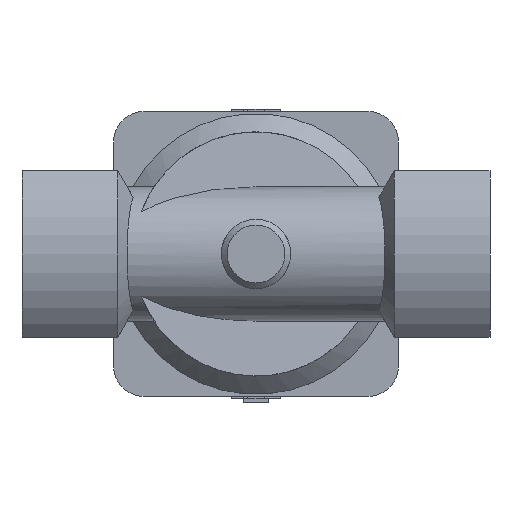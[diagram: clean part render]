
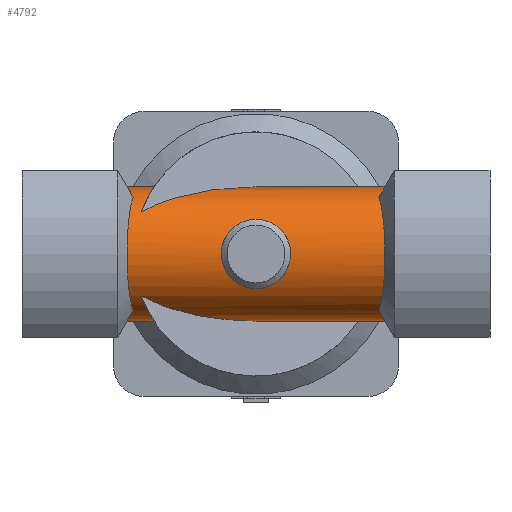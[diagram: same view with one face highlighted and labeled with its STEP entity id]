
A CAD part, front view. The second image highlights one B-rep face of the part: STEP entity #4792.
In plain terms, the highlighted cylindrical face has radius 16.5 mm (diameter 33 mm), a partial arc.
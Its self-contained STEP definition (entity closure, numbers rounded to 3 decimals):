
#442=LINE('',#7742,#882);
#443=LINE('',#7754,#883);
#444=LINE('',#7773,#884);
#445=LINE('',#7786,#885);
#882=VECTOR('',#6286,1000.);
#883=VECTOR('',#6289,1000.);
#884=VECTOR('',#6294,1000.);
#885=VECTOR('',#6297,1000.);
#1322=B_SPLINE_CURVE_WITH_KNOTS('',3,(#7727,#7728,#7729,#7730,#7731,#7732,
#7733,#7734,#7735,#7736,#7737,#7738),.UNSPECIFIED.,.F.,.F.,(4,1,1,1,1,1,
1,1,1,4),(0.001,0.009,0.014,0.016,
0.018,0.022,0.024,0.026,
0.03,0.034),.UNSPECIFIED.);
#1323=B_SPLINE_CURVE_WITH_KNOTS('',3,(#7744,#7745,#7746,#7747,#7748,#7749,
#7750),.UNSPECIFIED.,.F.,.F.,(4,1,1,1,4),(0.,0.004,
0.007,0.011,0.015),.UNSPECIFIED.);
#1324=B_SPLINE_CURVE_WITH_KNOTS('',3,(#7758,#7759,#7760,#7761,#7762,#7763,
#7764,#7765,#7766,#7767,#7768,#7769),.UNSPECIFIED.,.F.,.F.,(4,1,1,1,1,1,
1,1,1,4),(0.001,0.009,0.014,0.016,
0.018,0.022,0.024,0.026,
0.03,0.034),.UNSPECIFIED.);
#1325=B_SPLINE_CURVE_WITH_KNOTS('',3,(#7777,#7778,#7779,#7780,#7781,#7782,
#7783,#7784),.UNSPECIFIED.,.F.,.F.,(4,1,1,1,1,4),(0.002,0.006,
0.009,0.011,0.013,0.017),
 .UNSPECIFIED.);
#1326=B_SPLINE_CURVE_WITH_KNOTS('',3,(#7787,#7788,#7789,#7790,#7791,#7792,
#7793,#7794,#7795,#7796,#7797,#7798,#7799,#7800,#7801,#7802,#7803,#7804,
#7805,#7806),.UNSPECIFIED.,.T.,.F.,(1,1,1,1,1,1,1,1,1,1,1,1,1,1,1,1,1,1,
1,1,1,1,1,1),(-0.007,-0.003,-0.002,
0.,0.003,0.007,0.01,0.014,
0.017,0.02,0.024,0.027,
0.03,0.034,0.037,0.041,
0.044,0.047,0.051,0.052,
0.054,0.057,0.061,0.064),
 .UNSPECIFIED.);
#1377=ORIENTED_EDGE('',*,*,#2761,.F.);
#1378=ORIENTED_EDGE('',*,*,#2762,.F.);
#1379=ORIENTED_EDGE('',*,*,#2763,.F.);
#1380=ORIENTED_EDGE('',*,*,#2764,.F.);
#1381=ORIENTED_EDGE('',*,*,#2765,.T.);
#1382=ORIENTED_EDGE('',*,*,#2766,.F.);
#1383=ORIENTED_EDGE('',*,*,#2767,.F.);
#1384=ORIENTED_EDGE('',*,*,#2768,.T.);
#1385=ORIENTED_EDGE('',*,*,#2769,.T.);
#1386=ORIENTED_EDGE('',*,*,#2770,.T.);
#1387=ORIENTED_EDGE('',*,*,#2771,.F.);
#1388=ORIENTED_EDGE('',*,*,#2772,.F.);
#1389=ORIENTED_EDGE('',*,*,#2773,.T.);
#1390=ORIENTED_EDGE('',*,*,#2774,.F.);
#1391=ORIENTED_EDGE('',*,*,#2775,.F.);
#2761=EDGE_CURVE('',#3453,#3454,#3931,.F.);
#2762=EDGE_CURVE('',#3455,#3453,#1322,.T.);
#2763=EDGE_CURVE('',#3456,#3455,#3932,.F.);
#2764=EDGE_CURVE('',#3457,#3456,#442,.T.);
#2765=EDGE_CURVE('',#3457,#3458,#1323,.T.);
#2766=EDGE_CURVE('',#3459,#3458,#3933,.F.);
#2767=EDGE_CURVE('',#3460,#3459,#443,.T.);
#2768=EDGE_CURVE('',#3460,#3461,#3934,.T.);
#2769=EDGE_CURVE('',#3461,#3462,#1324,.T.);
#2770=EDGE_CURVE('',#3462,#3463,#3935,.T.);
#2771=EDGE_CURVE('',#3464,#3463,#444,.T.);
#2772=EDGE_CURVE('',#3465,#3464,#3936,.F.);
#2773=EDGE_CURVE('',#3465,#3466,#1325,.T.);
#2774=EDGE_CURVE('',#3454,#3466,#445,.T.);
#2775=EDGE_CURVE('',#3467,#3467,#1326,.T.);
#3453=VERTEX_POINT('',#7725);
#3454=VERTEX_POINT('',#7726);
#3455=VERTEX_POINT('',#7739);
#3456=VERTEX_POINT('',#7741);
#3457=VERTEX_POINT('',#7743);
#3458=VERTEX_POINT('',#7751);
#3459=VERTEX_POINT('',#7753);
#3460=VERTEX_POINT('',#7755);
#3461=VERTEX_POINT('',#7757);
#3462=VERTEX_POINT('',#7770);
#3463=VERTEX_POINT('',#7772);
#3464=VERTEX_POINT('',#7774);
#3465=VERTEX_POINT('',#7776);
#3466=VERTEX_POINT('',#7785);
#3467=VERTEX_POINT('',#7807);
#3931=ELLIPSE('',#5778,19.053,16.5);
#3932=ELLIPSE('',#5779,19.053,16.5);
#3933=ELLIPSE('',#5780,39.788,16.5);
#3934=ELLIPSE('',#5781,19.053,16.5);
#3935=ELLIPSE('',#5782,19.053,16.5);
#3936=ELLIPSE('',#5783,39.788,16.5);
#3947=EDGE_LOOP('',(#1377,#1378,#1379,#1380,#1381,#1382,#1383,#1384,#1385,
#1386,#1387,#1388,#1389,#1390));
#3948=EDGE_LOOP('',(#1391));
#4331=FACE_BOUND('',#3947,.T.);
#4332=FACE_BOUND('',#3948,.T.);
#4715=CYLINDRICAL_SURFACE('',#5777,16.5);
#4792=ADVANCED_FACE('',(#4331,#4332),#4715,.T.);
#5777=AXIS2_PLACEMENT_3D('',#7723,#6280,#6281);
#5778=AXIS2_PLACEMENT_3D('',#7724,#6282,#6283);
#5779=AXIS2_PLACEMENT_3D('',#7740,#6284,#6285);
#5780=AXIS2_PLACEMENT_3D('',#7752,#6287,#6288);
#5781=AXIS2_PLACEMENT_3D('',#7756,#6290,#6291);
#5782=AXIS2_PLACEMENT_3D('',#7771,#6292,#6293);
#5783=AXIS2_PLACEMENT_3D('',#7775,#6295,#6296);
#6280=DIRECTION('',(-1.,0.,0.));
#6281=DIRECTION('',(0.,0.,1.));
#6282=DIRECTION('',(0.866,0.,0.5));
#6283=DIRECTION('',(-0.5,0.,0.866));
#6284=DIRECTION('',(0.866,0.,-0.5));
#6285=DIRECTION('',(-0.5,0.,-0.866));
#6286=DIRECTION('',(-1.,0.,0.));
#6287=DIRECTION('',(0.415,-0.91,0.));
#6288=DIRECTION('',(-0.91,-0.415,0.));
#6289=DIRECTION('',(-1.,0.,0.));
#6290=DIRECTION('',(-0.866,0.,-0.5));
#6291=DIRECTION('',(-0.5,0.,0.866));
#6292=DIRECTION('',(-0.866,0.,0.5));
#6293=DIRECTION('',(-0.5,0.,-0.866));
#6294=DIRECTION('',(1.,0.,0.));
#6295=DIRECTION('',(0.415,-0.91,0.));
#6296=DIRECTION('',(-0.91,-0.415,0.));
#6297=DIRECTION('',(1.,0.,0.));
#7723=CARTESIAN_POINT('',(35.,0.,0.));
#7724=CARTESIAN_POINT('',(-22.164,0.,0.));
#7725=CARTESIAN_POINT('',(-30.223,-8.798,13.959));
#7726=CARTESIAN_POINT('',(-31.691,0.,16.5));
#7727=CARTESIAN_POINT('',(-30.223,-8.798,-13.959));
#7728=CARTESIAN_POINT('',(-30.692,-11.121,-12.494));
#7729=CARTESIAN_POINT('',(-31.245,-14.054,-9.414));
#7730=CARTESIAN_POINT('',(-31.579,-15.883,-4.831));
#7731=CARTESIAN_POINT('',(-31.674,-16.409,-2.113));
#7732=CARTESIAN_POINT('',(-31.707,-16.589,0.702));
#7733=CARTESIAN_POINT('',(-31.644,-16.239,3.461));
#7734=CARTESIAN_POINT('',(-31.485,-15.365,6.133));
#7735=CARTESIAN_POINT('',(-31.267,-14.183,8.629));
#7736=CARTESIAN_POINT('',(-30.878,-12.111,11.463));
#7737=CARTESIAN_POINT('',(-30.459,-9.968,13.221));
#7738=CARTESIAN_POINT('',(-30.223,-8.798,13.959));
#7739=CARTESIAN_POINT('',(-30.223,-8.798,-13.959));
#7740=CARTESIAN_POINT('',(-22.164,0.,0.));
#7741=CARTESIAN_POINT('',(-31.691,0.,-16.5));
#7742=CARTESIAN_POINT('',(35.,0.,-16.5));
#7743=CARTESIAN_POINT('',(-25.055,0.,-16.5));
#7744=CARTESIAN_POINT('',(-25.055,0.,-16.5));
#7745=CARTESIAN_POINT('',(-25.055,-1.27,-16.5));
#7746=CARTESIAN_POINT('',(-25.248,-3.75,-16.212));
#7747=CARTESIAN_POINT('',(-26.023,-7.272,-14.965));
#7748=CARTESIAN_POINT('',(-27.071,-10.361,-13.009));
#7749=CARTESIAN_POINT('',(-27.8,-12.065,-11.32));
#7750=CARTESIAN_POINT('',(-28.148,-12.828,-10.378));
#7751=CARTESIAN_POINT('',(-28.148,-12.828,-10.378));
#7752=CARTESIAN_POINT('',(0.,0.,0.));
#7753=CARTESIAN_POINT('',(0.,0.,-16.5));
#7754=CARTESIAN_POINT('',(35.,0.,-16.5));
#7755=CARTESIAN_POINT('',(31.691,0.,-16.5));
#7756=CARTESIAN_POINT('',(22.164,0.,0.));
#7757=CARTESIAN_POINT('',(30.223,-8.798,-13.959));
#7758=CARTESIAN_POINT('',(30.223,-8.798,-13.959));
#7759=CARTESIAN_POINT('',(30.692,-11.121,-12.494));
#7760=CARTESIAN_POINT('',(31.245,-14.054,-9.414));
#7761=CARTESIAN_POINT('',(31.579,-15.883,-4.831));
#7762=CARTESIAN_POINT('',(31.674,-16.409,-2.113));
#7763=CARTESIAN_POINT('',(31.707,-16.589,0.702));
#7764=CARTESIAN_POINT('',(31.644,-16.239,3.461));
#7765=CARTESIAN_POINT('',(31.485,-15.365,6.133));
#7766=CARTESIAN_POINT('',(31.267,-14.183,8.629));
#7767=CARTESIAN_POINT('',(30.878,-12.111,11.463));
#7768=CARTESIAN_POINT('',(30.459,-9.968,13.221));
#7769=CARTESIAN_POINT('',(30.223,-8.798,13.959));
#7770=CARTESIAN_POINT('',(30.223,-8.798,13.959));
#7771=CARTESIAN_POINT('',(22.164,0.,0.));
#7772=CARTESIAN_POINT('',(31.691,0.,16.5));
#7773=CARTESIAN_POINT('',(-35.,0.,16.5));
#7774=CARTESIAN_POINT('',(0.,0.,16.5));
#7775=CARTESIAN_POINT('',(0.,0.,0.));
#7776=CARTESIAN_POINT('',(-28.148,-12.828,10.378));
#7777=CARTESIAN_POINT('',(-28.148,-12.828,10.378));
#7778=CARTESIAN_POINT('',(-27.803,-12.07,11.314));
#7779=CARTESIAN_POINT('',(-27.07,-10.36,13.012));
#7780=CARTESIAN_POINT('',(-26.199,-7.785,14.637));
#7781=CARTESIAN_POINT('',(-25.64,-5.537,15.58));
#7782=CARTESIAN_POINT('',(-25.199,-3.129,16.285));
#7783=CARTESIAN_POINT('',(-25.055,-1.272,16.5));
#7784=CARTESIAN_POINT('',(-25.055,0.,16.5));
#7785=CARTESIAN_POINT('',(-25.055,0.,16.5));
#7786=CARTESIAN_POINT('',(-35.,0.,16.5));
#7787=CARTESIAN_POINT('',(-1.723,-14.215,-8.381));
#7788=CARTESIAN_POINT('',(0.581,-14.069,-8.618));
#7789=CARTESIAN_POINT('',(3.386,-14.436,-8.033));
#7790=CARTESIAN_POINT('',(6.151,-15.374,-6.167));
#7791=CARTESIAN_POINT('',(8.028,-16.25,-3.405));
#7792=CARTESIAN_POINT('',(8.733,-16.623,-0.024));
#7793=CARTESIAN_POINT('',(8.04,-16.256,3.384));
#7794=CARTESIAN_POINT('',(6.158,-15.377,6.159));
#7795=CARTESIAN_POINT('',(3.406,-14.441,8.025));
#7796=CARTESIAN_POINT('',(0.032,-13.995,8.733));
#7797=CARTESIAN_POINT('',(-3.373,-14.43,8.044));
#7798=CARTESIAN_POINT('',(-6.143,-15.371,6.175));
#7799=CARTESIAN_POINT('',(-8.027,-16.249,3.41));
#7800=CARTESIAN_POINT('',(-8.733,-16.623,0.025));
#7801=CARTESIAN_POINT('',(-8.043,-16.258,-3.378));
#7802=CARTESIAN_POINT('',(-6.159,-15.375,-6.164));
#7803=CARTESIAN_POINT('',(-3.845,-14.595,-7.72));
#7804=CARTESIAN_POINT('',(-1.723,-14.215,-8.381));
#7805=CARTESIAN_POINT('',(0.581,-14.069,-8.618));
#7806=CARTESIAN_POINT('',(3.386,-14.436,-8.033));
#7807=CARTESIAN_POINT('',(0.,-14.142,-8.5));
